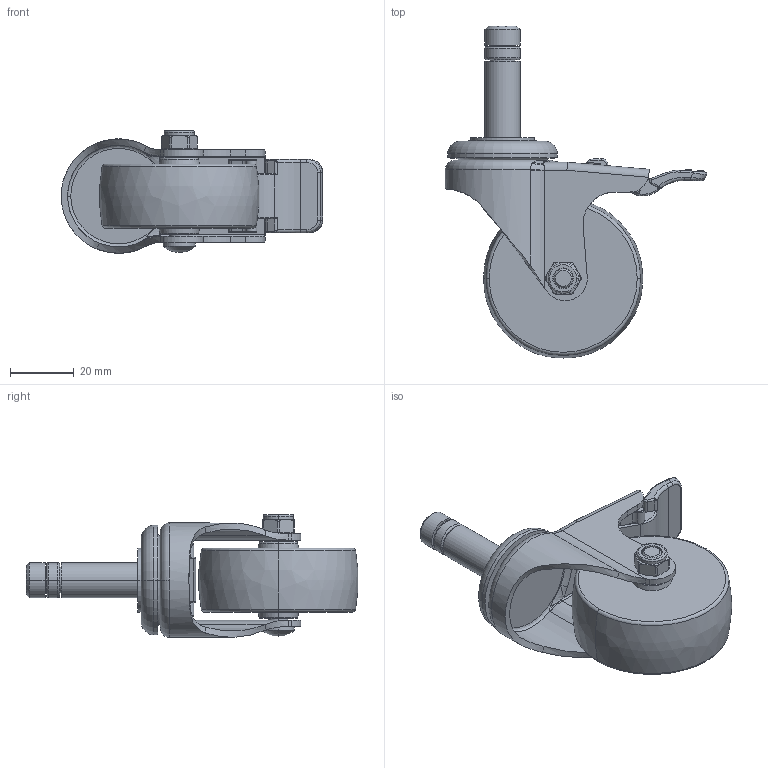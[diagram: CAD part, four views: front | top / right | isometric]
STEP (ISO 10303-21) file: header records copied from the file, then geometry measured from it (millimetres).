
FILE_DESCRIPTION((''),'2;1');
FILE_NAME('261115-2615-83_ASM','2019-12-13T',('L'),(''),'PRO/ENGINEER BY PARAMETRIC TECHNOLOGY CORPORATION, 2010280','PRO/ENGINEER BY PARAMETRIC TECHNOLOGY CORPORATION, 2010280','');
FILE_SCHEMA(('CONFIG_CONTROL_DESIGN'));
Length unit declared in the file: millimetre
Products named in the file (6): 26162; 262-83; 2610-020; 2610-031; 2600-512; 261115-2615-83_ASM
Assembly tree (5 placements, depth 2):
  261115-2615-83_ASM
    26162
    262-83
    2610-020
    2610-031
    2600-512
Bounding box: 81.87 x 103.9 x 38.43 mm (x, y, z)
Volume: 58670.1 mm3; surface area: 22696.9 mm2
Topology: 5 solids, 5 shells, 326 faces, 768 edges, 461 vertices
Faces by surface type: cylinder 118, plane 89, torus 56, bspline 39, cone 22, sphere 2
Entity records: 11793 total; most frequent: CARTESIAN_POINT 4300, DIRECTION 1592, ORIENTED_EDGE 1524, EDGE_CURVE 762, AXIS2_PLACEMENT_3D 649, VERTEX_POINT 461, EDGE_LOOP 351, CIRCLE 351
